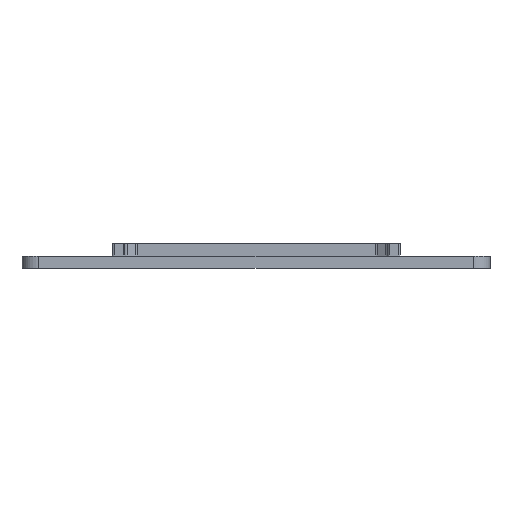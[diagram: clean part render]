
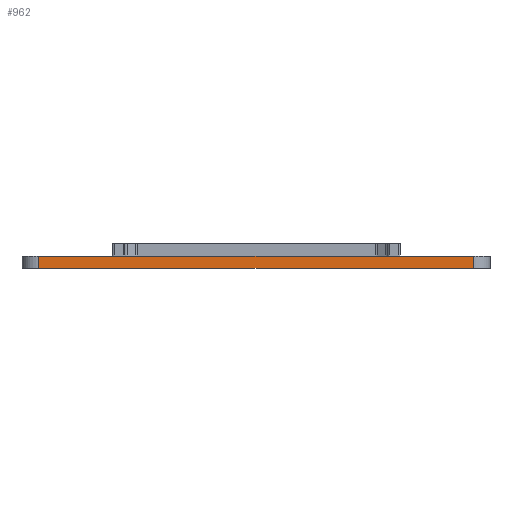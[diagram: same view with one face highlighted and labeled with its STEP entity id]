
A CAD part, front view. The second image highlights one B-rep face of the part: STEP entity #962.
In plain terms, the highlighted planar face has unit normal (0, -1, 0).
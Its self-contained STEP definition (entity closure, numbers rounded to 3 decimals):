
#179=DIRECTION('',(-1.,0.,0.));
#180=VECTOR('',#179,52.4);
#181=CARTESIAN_POINT('',(26.2,0.,-1.5));
#182=LINE('',#181,#180);
#237=DIRECTION('',(0.,0.,-1.));
#238=VECTOR('',#237,1.5);
#239=CARTESIAN_POINT('',(26.2,0.,0.));
#240=LINE('',#239,#238);
#241=DIRECTION('',(-1.,0.,0.));
#242=VECTOR('',#241,52.4);
#243=CARTESIAN_POINT('',(26.2,0.,0.));
#244=LINE('',#243,#242);
#245=DIRECTION('',(0.,0.,1.));
#246=VECTOR('',#245,1.5);
#247=CARTESIAN_POINT('',(-26.2,0.,-1.5));
#248=LINE('',#247,#246);
#585=CARTESIAN_POINT('',(26.2,0.,-1.5));
#586=VERTEX_POINT('',#585);
#645=CARTESIAN_POINT('',(-26.2,0.,-1.5));
#646=VERTEX_POINT('',#645);
#673=CARTESIAN_POINT('',(26.2,0.,0.));
#674=VERTEX_POINT('',#673);
#679=CARTESIAN_POINT('',(-26.2,0.,0.));
#680=VERTEX_POINT('',#679);
#950=CARTESIAN_POINT('',(-26.2,0.,0.));
#951=DIRECTION('',(0.,-1.,0.));
#952=DIRECTION('',(0.,0.,-1.));
#953=AXIS2_PLACEMENT_3D('',#950,#951,#952);
#954=PLANE('',#953);
#955=ORIENTED_EDGE('',*,*,#944,.T.);
#956=ORIENTED_EDGE('',*,*,#857,.T.);
#958=ORIENTED_EDGE('',*,*,#957,.T.);
#959=ORIENTED_EDGE('',*,*,#740,.F.);
#960=EDGE_LOOP('',(#955,#956,#958,#959));
#961=FACE_OUTER_BOUND('',#960,.F.);
#962=ADVANCED_FACE('',(#961),#954,.T.);
#740=EDGE_CURVE('',#674,#680,#244,.T.);
#857=EDGE_CURVE('',#586,#646,#182,.T.);
#944=EDGE_CURVE('',#674,#586,#240,.T.);
#957=EDGE_CURVE('',#646,#680,#248,.T.);
